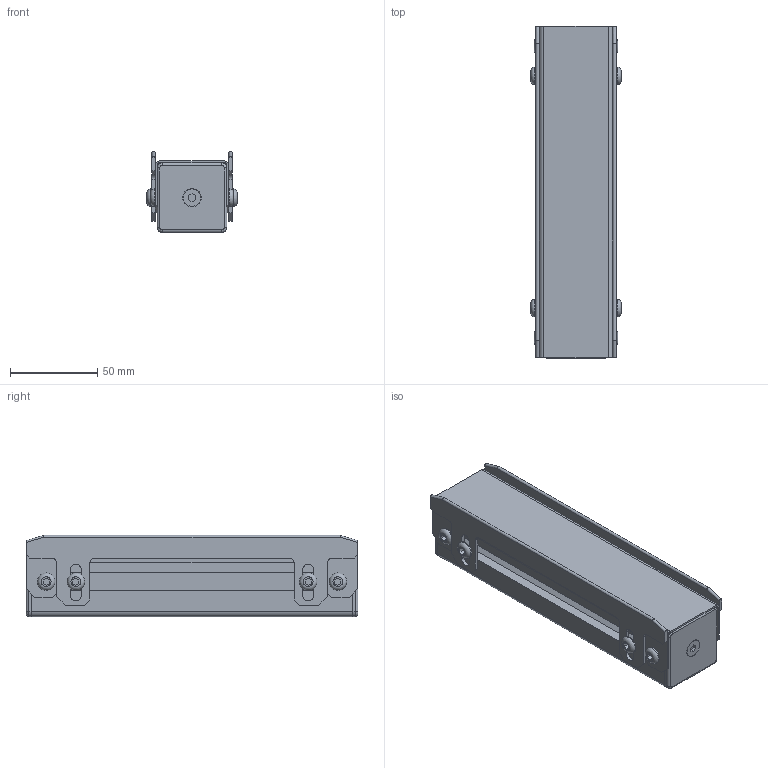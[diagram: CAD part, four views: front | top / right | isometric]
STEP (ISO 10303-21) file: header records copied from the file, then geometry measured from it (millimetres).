
FILE_DESCRIPTION(/* description */ (''),/* implementation_level */ '2;1');
FILE_NAME(/* name */ 'MGSS-FA-4040x190H.step',/* time_stamp */ '2022-12-15T12:53:29+09:00',/* author */ (''),/* organization */ (''),/* preprocessor_version */ 'ST-DEVELOPER v19.2',/* originating_system */ 'Autodesk Translation Framework v11.17.0.187',/* authorisation */ '');
FILE_SCHEMA (('AUTOMOTIVE_DESIGN { 1 0 10303 214 3 1 1 }'));
Length unit declared in the file: millimetre
Products named in the file (1): MGSS-FA-4040x190H
Bounding box: 51.6 x 190 x 46.5 mm (x, y, z)
Volume: 154407.4 mm3; surface area: 135885.2 mm2
Topology: 16 solids, 16 shells, 352 faces, 928 edges, 610 vertices
Faces by surface type: plane 236, cylinder 88, bspline 8, torus 8, sphere 8, cone 4
Full cylindrical faces by diameter (mm): 5 x2, 6 x4, 10 x8
Entity records: 10996 total; most frequent: CARTESIAN_POINT 1955, ORIENTED_EDGE 1856, DIRECTION 1844, EDGE_CURVE 928, LINE 702, VECTOR 702, VERTEX_POINT 610, AXIS2_PLACEMENT_3D 571
